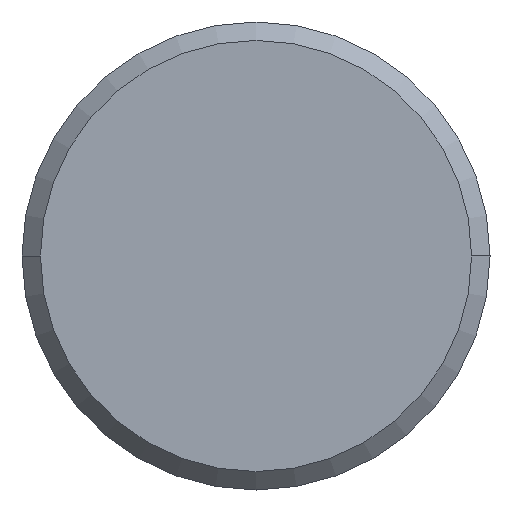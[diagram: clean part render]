
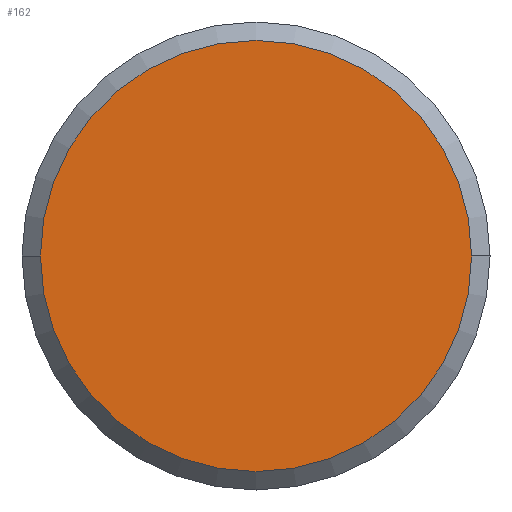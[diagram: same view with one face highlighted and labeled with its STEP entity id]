
A CAD part, left-side view. The second image highlights one B-rep face of the part: STEP entity #162.
In plain terms, the highlighted planar face has unit normal (-1, 0, 0).
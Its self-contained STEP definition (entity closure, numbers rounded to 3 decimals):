
#7 = AXIS2_PLACEMENT_3D ( 'NONE', #252, #166, #306 ) ;
#31 = AXIS2_PLACEMENT_3D ( 'NONE', #204, #389, #395 ) ;
#35 = AXIS2_PLACEMENT_3D ( 'NONE', #241, #421, #268 ) ;
#47 = FACE_OUTER_BOUND ( 'NONE', #288, .T. ) ;
#72 = PLANE ( 'NONE',  #7 ) ;
#78 = EDGE_CURVE ( 'NONE', #239, #191, #104, .T. ) ;
#83 = EDGE_CURVE ( 'NONE', #191, #239, #377, .T. ) ;
#104 = CIRCLE ( 'NONE', #35, 5.85 ) ;
#146 = CARTESIAN_POINT ( 'NONE',  ( -49.8, -5.85, 0. ) ) ;
#162 = ADVANCED_FACE ( 'NONE', ( #47 ), #72, .T. ) ;
#166 = DIRECTION ( 'NONE',  ( -1., 0., 0. ) ) ;
#191 = VERTEX_POINT ( 'NONE', #146 ) ;
#204 = CARTESIAN_POINT ( 'NONE',  ( -49.8, 0., 0. ) ) ;
#231 = CARTESIAN_POINT ( 'NONE',  ( -49.8, 5.85, 0. ) ) ;
#239 = VERTEX_POINT ( 'NONE', #231 ) ;
#241 = CARTESIAN_POINT ( 'NONE',  ( -49.8, 0., 0. ) ) ;
#242 = ORIENTED_EDGE ( 'NONE', *, *, #78, .F. ) ;
#252 = CARTESIAN_POINT ( 'NONE',  ( -49.8, 0., 0. ) ) ;
#268 = DIRECTION ( 'NONE',  ( 0., 1., 0. ) ) ;
#288 = EDGE_LOOP ( 'NONE', ( #242, #419 ) ) ;
#306 = DIRECTION ( 'NONE',  ( 0., -1., 0. ) ) ;
#377 = CIRCLE ( 'NONE', #31, 5.85 ) ;
#389 = DIRECTION ( 'NONE',  ( 1., 0., 0. ) ) ;
#395 = DIRECTION ( 'NONE',  ( 0., 1., 0. ) ) ;
#419 = ORIENTED_EDGE ( 'NONE', *, *, #83, .F. ) ;
#421 = DIRECTION ( 'NONE',  ( 1., 0., 0. ) ) ;
